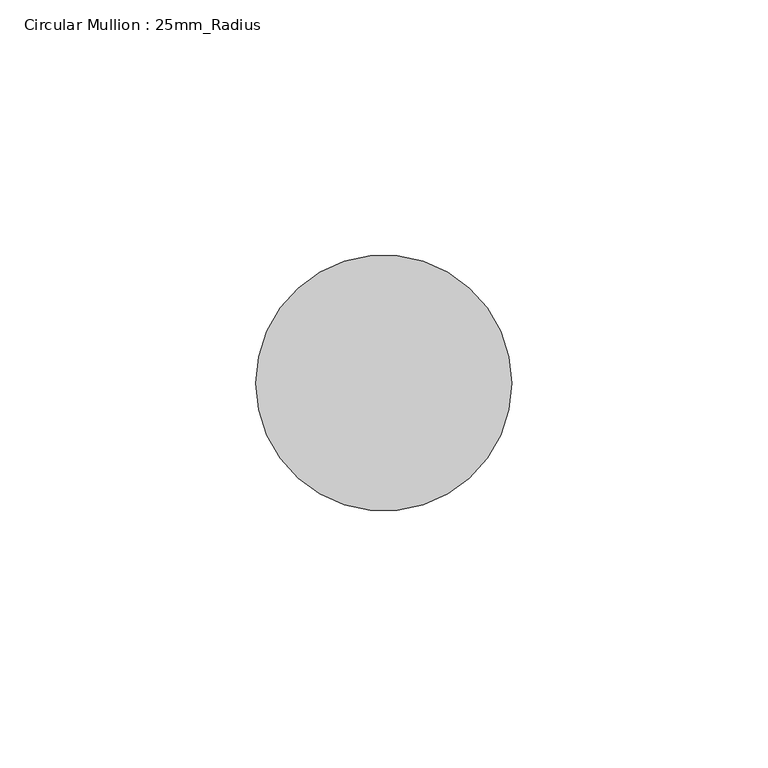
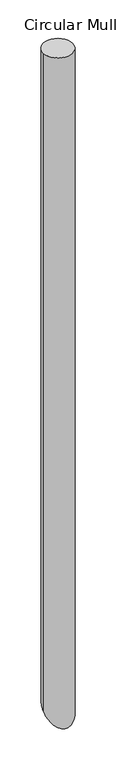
"""IFC4 building model written with IfcOpenShell, lengths in millimetres: member geometry, Circular Mullion : 25mm_Radius."""

from ifc_helpers import new_model, si_unit, frame, origin, place, context, project, spatial, circle_curve, ellipse_curve, source, transform, mapped, element, save
from ifc_brep_helpers import plane_surface, cylinder_surface, advanced_brep


def circular_mullion_25mm_radius_489e932e(model_context):
    return source(origin(), model_context, "Body", "AdvancedBrep", [
        advanced_brep(
        [(0.0, 0.0, 0.0), (-50.0, 0.0, 0.0), (0.0, 0.0, -1176.2050127), (-50.0, 0.0, -1176.2050127)],
        [
            (0, 1, circle_curve(frame((-25.0, 0.0, 0.0), z_axis=(0.0, 0.0, 1.0), x_axis=(1.0, 0.0, 0.0)), 25.0)),
            (1, 0, circle_curve(frame((-25.0, 0.0, 0.0), z_axis=(0.0, 0.0, 1.0), x_axis=(1.0, 0.0, 0.0)), 25.0)),
            (0, 2),
            (2, 3, ellipse_curve(frame((-25.0, 0.0, -1176.2050127), z_axis=(0.0, -0.7071067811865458, 0.7071067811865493), x_axis=(0.0, 0.7071067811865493, 0.7071067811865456)), 35.3553391, 25.0)),
            (3, 1),
            (3, 2, ellipse_curve(frame((-25.0, 0.0, -1176.2050127), z_axis=(0.0, -0.7071067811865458, 0.7071067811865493), x_axis=(0.0, 0.7071067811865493, 0.7071067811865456)), 35.3553391, 25.0)),
        ],
        [
            plane_surface(frame((0.0, -50.0, 0.0), z_axis=(0.0, 0.0, 1.0), x_axis=(-1.0, 0.0, 0.0))),
            cylinder_surface(frame((-25.0, 0.0, 0.0), z_axis=(0.0, 0.0, 1.0), x_axis=(1.0, 0.0, 0.0)), 25.0),
            plane_surface(frame((-304.8, 0.0, -1176.2050127), z_axis=(0.0, 0.7071067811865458, -0.7071067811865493), x_axis=(0.0, 0.7071067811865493, 0.7071067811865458))),
        ],
        [
            (0, [[1, 2]]),
            (1, [[-1, 3, 4, 5]]),
            (1, [[-2, -5, 6, -3]]),
            (2, [[-6, -4]]),
        ],
    ),
    ])


if __name__ == "__main__":
    model = new_model("IFC4")
    model_context = context("Model", 3, world=origin())
    ifc_project = project(units=[si_unit("LENGTHUNIT", "METRE", prefix="MILLI")], contexts=[model_context])
    site = spatial("IfcSite", under=ifc_project)
    building = spatial("IfcBuilding", under=site)
    placement = place(None, origin())
    circular_mullion_25mm_radius_shape = circular_mullion_25mm_radius_489e932e(model_context)
    element("IfcMember", 1, ObjectType="Circular Mullion : 25mm_Radius", at=placement, inside=building, context=model_context, shape_type="MappedRepresentation", body=[
        mapped(circular_mullion_25mm_radius_shape, transform((0.0, 0.0, 0.0), x_axis=(1.0, 0.0, 0.0), y_axis=(0.0, 1.0, 0.0), z_axis=(0.0, 0.0, 1.0))),
    ])
    save(model, "model.ifc")
